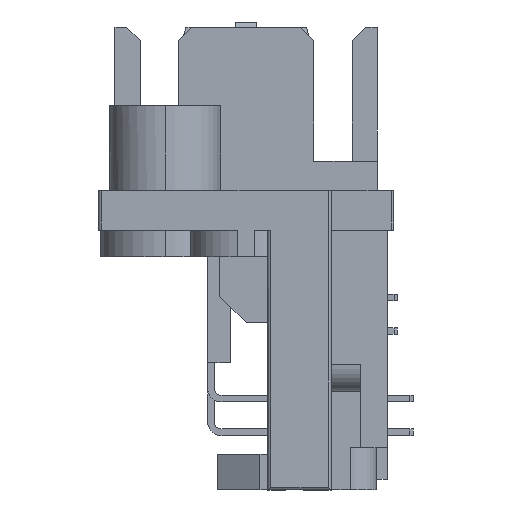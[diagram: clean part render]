
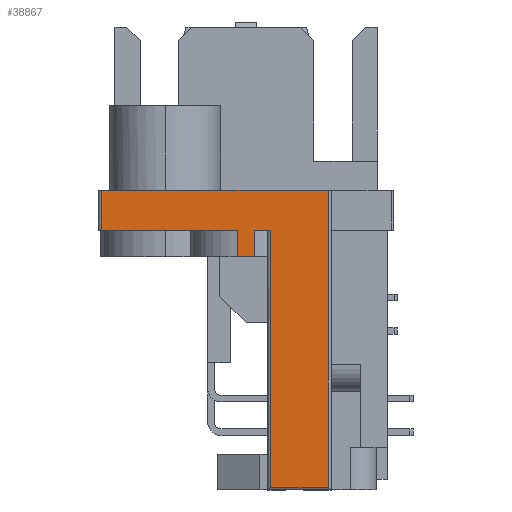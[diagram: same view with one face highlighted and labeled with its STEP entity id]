
A CAD part, left-side view. The second image highlights one B-rep face of the part: STEP entity #38867.
In plain terms, the highlighted planar face has unit normal (-1, 0, 0).
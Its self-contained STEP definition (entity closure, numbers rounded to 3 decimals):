
#743 = DIRECTION ( 'NONE',  ( 0., 0., -1. ) ) ;
#1633 = LINE ( 'NONE', #136250, #9784 ) ;
#6825 = VECTOR ( 'NONE', #60283, 1000. ) ;
#7361 = AXIS2_PLACEMENT_3D ( 'NONE', #155072, #28666, #56341 ) ;
#7420 = FACE_OUTER_BOUND ( 'NONE', #63044, .T. ) ;
#8940 = CARTESIAN_POINT ( 'NONE',  ( -41.7, 0., 2.5 ) ) ;
#9784 = VECTOR ( 'NONE', #123992, 1000. ) ;
#12011 = VECTOR ( 'NONE', #55223, 1000. ) ;
#12158 = VERTEX_POINT ( 'NONE', #73172 ) ;
#12279 = VECTOR ( 'NONE', #51718, 1000. ) ;
#16123 = CARTESIAN_POINT ( 'NONE',  ( -41.7, 0., 0. ) ) ;
#17167 = CARTESIAN_POINT ( 'NONE',  ( -41.7, -8.66, -8.7 ) ) ;
#22298 = VECTOR ( 'NONE', #119804, 1000. ) ;
#24091 = ORIENTED_EDGE ( 'NONE', *, *, #118282, .F. ) ;
#27567 = CARTESIAN_POINT ( 'NONE',  ( -41.7, -0.1, 2.5 ) ) ;
#28666 = DIRECTION ( 'NONE',  ( 1., 0., 0. ) ) ;
#30321 = VECTOR ( 'NONE', #743, 1000. ) ;
#30726 = LINE ( 'NONE', #16123, #12011 ) ;
#33940 = VERTEX_POINT ( 'NONE', #17167 ) ;
#35258 = CARTESIAN_POINT ( 'NONE',  ( -41.7, -0.1, 2.5 ) ) ;
#38476 = CARTESIAN_POINT ( 'NONE',  ( -41.7, -6.48, -8.8 ) ) ;
#38867 = ADVANCED_FACE ( 'NONE', ( #7420 ), #54748, .F. ) ;
#39022 = LINE ( 'NONE', #27567, #30321 ) ;
#39626 = DIRECTION ( 'NONE',  ( 0., -1., 0. ) ) ;
#41227 = LINE ( 'NONE', #126134, #143069 ) ;
#44197 = CARTESIAN_POINT ( 'NONE',  ( -41.7, -6.48, 1. ) ) ;
#45267 = EDGE_CURVE ( 'NONE', #143664, #33940, #41227, .T. ) ;
#46476 = CARTESIAN_POINT ( 'NONE',  ( -41.7, -6.48, -8.7 ) ) ;
#50120 = LINE ( 'NONE', #87636, #12279 ) ;
#50295 = VECTOR ( 'NONE', #73209, 1000. ) ;
#51718 = DIRECTION ( 'NONE',  ( 0., 0., -1. ) ) ;
#53685 = VERTEX_POINT ( 'NONE', #146554 ) ;
#53885 = ORIENTED_EDGE ( 'NONE', *, *, #126521, .F. ) ;
#54369 = CARTESIAN_POINT ( 'NONE',  ( -41.7, -0.1, 1. ) ) ;
#54748 = PLANE ( 'NONE',  #7361 ) ;
#55223 = DIRECTION ( 'NONE',  ( 0., -1., 0. ) ) ;
#56341 = DIRECTION ( 'NONE',  ( 0., 0., -1. ) ) ;
#60283 = DIRECTION ( 'NONE',  ( 0., -1., 0. ) ) ;
#60292 = VERTEX_POINT ( 'NONE', #97361 ) ;
#60589 = VERTEX_POINT ( 'NONE', #44197 ) ;
#62250 = EDGE_CURVE ( 'NONE', #109413, #12158, #70941, .T. ) ;
#62389 = EDGE_CURVE ( 'NONE', #109413, #114348, #39022, .T. ) ;
#63044 = EDGE_LOOP ( 'NONE', ( #91451, #148187, #83977, #64878, #121002, #128078, #24091, #127250, #111918, #53885 ) ) ;
#64095 = VECTOR ( 'NONE', #113521, 1000. ) ;
#64878 = ORIENTED_EDGE ( 'NONE', *, *, #146697, .T. ) ;
#70036 = CARTESIAN_POINT ( 'NONE',  ( -41.7, -5.883, 1. ) ) ;
#70941 = LINE ( 'NONE', #8940, #6825 ) ;
#73172 = CARTESIAN_POINT ( 'NONE',  ( -41.7, -8.66, 2.5 ) ) ;
#73209 = DIRECTION ( 'NONE',  ( 0., 1., 0. ) ) ;
#81708 = VECTOR ( 'NONE', #147116, 1000. ) ;
#82079 = VERTEX_POINT ( 'NONE', #116237 ) ;
#83977 = ORIENTED_EDGE ( 'NONE', *, *, #45267, .T. ) ;
#84567 = EDGE_CURVE ( 'NONE', #82079, #53685, #148739, .T. ) ;
#86270 = CARTESIAN_POINT ( 'NONE',  ( -41.7, -5.237, 1. ) ) ;
#87636 = CARTESIAN_POINT ( 'NONE',  ( -41.7, -5.883, 1. ) ) ;
#91451 = ORIENTED_EDGE ( 'NONE', *, *, #123666, .F. ) ;
#93133 = CARTESIAN_POINT ( 'NONE',  ( -41.7, -5.883, 0. ) ) ;
#97356 = CARTESIAN_POINT ( 'NONE',  ( -41.7, -5.237, 1. ) ) ;
#97361 = CARTESIAN_POINT ( 'NONE',  ( -41.7, -5.883, 1. ) ) ;
#109413 = VERTEX_POINT ( 'NONE', #35258 ) ;
#109951 = LINE ( 'NONE', #86270, #50295 ) ;
#111918 = ORIENTED_EDGE ( 'NONE', *, *, #143074, .T. ) ;
#113521 = DIRECTION ( 'NONE',  ( 0., 0., -1. ) ) ;
#114348 = VERTEX_POINT ( 'NONE', #54369 ) ;
#116237 = CARTESIAN_POINT ( 'NONE',  ( -41.7, -5.237, 1. ) ) ;
#118282 = EDGE_CURVE ( 'NONE', #82079, #114348, #109951, .T. ) ;
#119804 = DIRECTION ( 'NONE',  ( 0., 1., 0. ) ) ;
#121002 = ORIENTED_EDGE ( 'NONE', *, *, #62250, .F. ) ;
#123666 = EDGE_CURVE ( 'NONE', #60589, #60292, #132041, .T. ) ;
#123992 = DIRECTION ( 'NONE',  ( 0., 0., 1. ) ) ;
#125787 = EDGE_CURVE ( 'NONE', #60589, #143664, #153451, .T. ) ;
#126134 = CARTESIAN_POINT ( 'NONE',  ( -41.7, -8.76, -8.7 ) ) ;
#126521 = EDGE_CURVE ( 'NONE', #60292, #142345, #50120, .T. ) ;
#127250 = ORIENTED_EDGE ( 'NONE', *, *, #84567, .T. ) ;
#128078 = ORIENTED_EDGE ( 'NONE', *, *, #62389, .T. ) ;
#132041 = LINE ( 'NONE', #70036, #22298 ) ;
#136250 = CARTESIAN_POINT ( 'NONE',  ( -41.7, -8.66, 2.5 ) ) ;
#142345 = VERTEX_POINT ( 'NONE', #93133 ) ;
#143069 = VECTOR ( 'NONE', #39626, 1000. ) ;
#143074 = EDGE_CURVE ( 'NONE', #53685, #142345, #30726, .T. ) ;
#143664 = VERTEX_POINT ( 'NONE', #46476 ) ;
#146554 = CARTESIAN_POINT ( 'NONE',  ( -41.7, -5.237, 0. ) ) ;
#146697 = EDGE_CURVE ( 'NONE', #33940, #12158, #1633, .T. ) ;
#147116 = DIRECTION ( 'NONE',  ( 0., 0., -1. ) ) ;
#148187 = ORIENTED_EDGE ( 'NONE', *, *, #125787, .T. ) ;
#148739 = LINE ( 'NONE', #97356, #81708 ) ;
#153451 = LINE ( 'NONE', #38476, #64095 ) ;
#155072 = CARTESIAN_POINT ( 'NONE',  ( -41.7, 0., 2.5 ) ) ;
